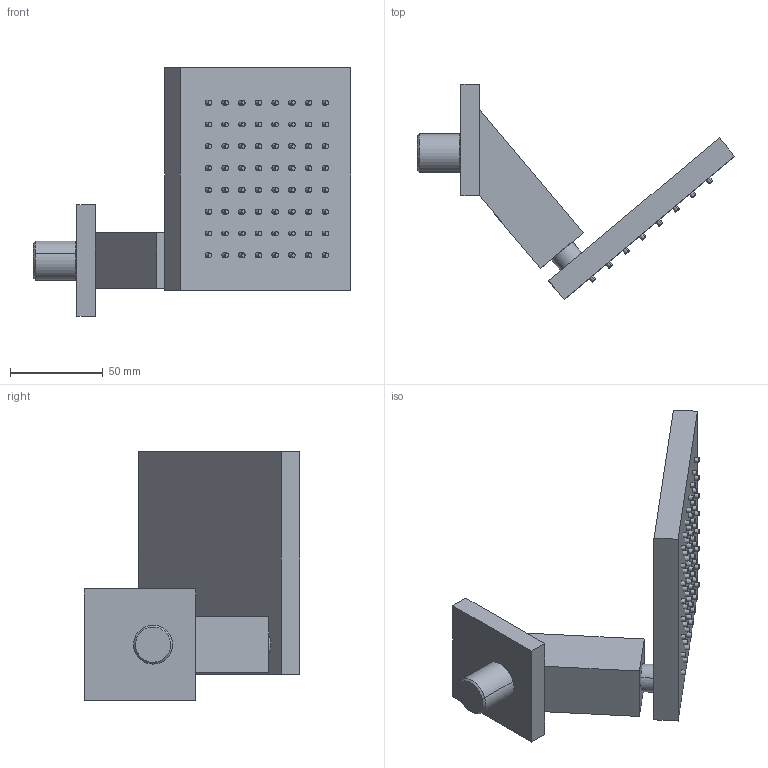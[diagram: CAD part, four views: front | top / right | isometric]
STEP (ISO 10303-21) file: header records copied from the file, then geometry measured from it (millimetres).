
FILE_DESCRIPTION((''),'2;1');
FILE_NAME('8600080870000000-0161_SW0001','2022-06-30T16:03:10',('Elia'),(''),'CREO PARAMETRIC BY PTC INC, 2021424','CREO PARAMETRIC BY PTC INC, 2021424','');
FILE_SCHEMA(('AUTOMOTIVE_DESIGN { 1 0 10303 214 1 1 1 1 }'));
Length unit declared in the file: millimetre
Products named in the file (1): 8600080870000000-0161_SW0001
Bounding box: 171.1 x 115.99 x 134 mm (x, y, z)
Volume: 295703.5 mm3; surface area: 55270.7 mm2
Topology: 1 solids, 1 shells, 346 faces, 697 edges, 420 vertices
Faces by surface type: cone 132, torus 128, plane 82, cylinder 4
Entity records: 14012 total; most frequent: CARTESIAN_POINT 6535, DIRECTION 1680, ORIENTED_EDGE 1394, AXIS2_PLACEMENT_3D 752, EDGE_CURVE 697, VERTEX_POINT 420, EDGE_LOOP 413, CIRCLE 396
